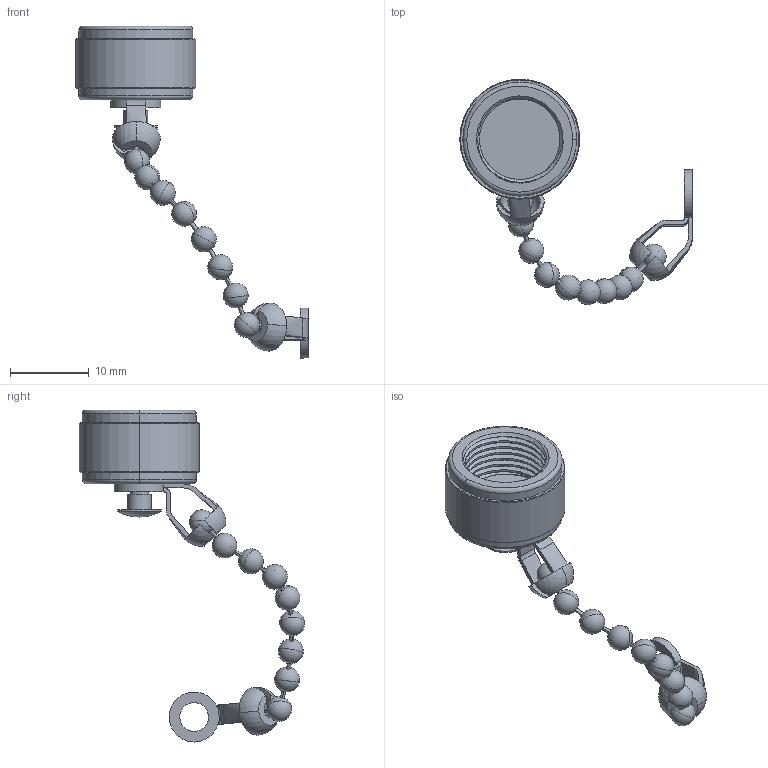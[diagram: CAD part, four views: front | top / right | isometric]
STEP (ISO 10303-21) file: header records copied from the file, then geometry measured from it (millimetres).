
FILE_DESCRIPTION (( 'STEP AP203' ), '1' );
FILE_NAME ('1232000N000-000.STEP', '2023-11-08T21:16:39', ( '' ), ( '' ), 'SwSTEP 2.0', 'SolidWorks 2022', '' );
FILE_SCHEMA (( 'CONFIG_CONTROL_DESIGN' ));
Length unit declared in the file: inch
Products named in the file (1): 1232000N000-000
Bounding box: 29.55 x 28.63 x 42.21 mm (x, y, z)
Volume: 1371.5 mm3; surface area: 2444.4 mm2
Topology: 24 solids, 24 shells, 621 faces, 1627 edges, 1073 vertices
Faces by surface type: plane 273, bspline 220, cylinder 75, sphere 32, cone 15, torus 6
Entity records: 31266 total; most frequent: CARTESIAN_POINT 17731, ORIENTED_EDGE 3130, DIRECTION 2069, EDGE_CURVE 1565, VERTEX_POINT 1039, VECTOR 877, LINE 877, EDGE_LOOP 678
